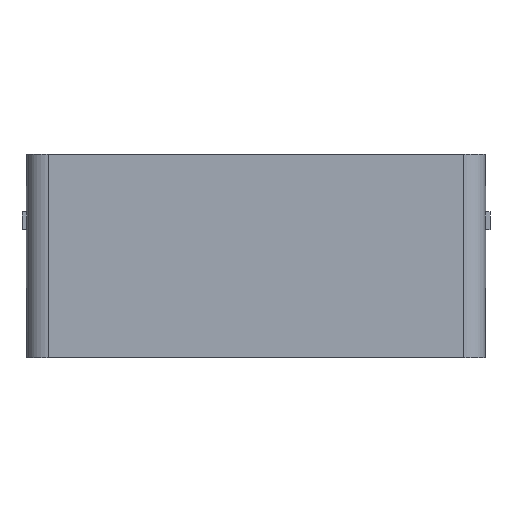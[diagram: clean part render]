
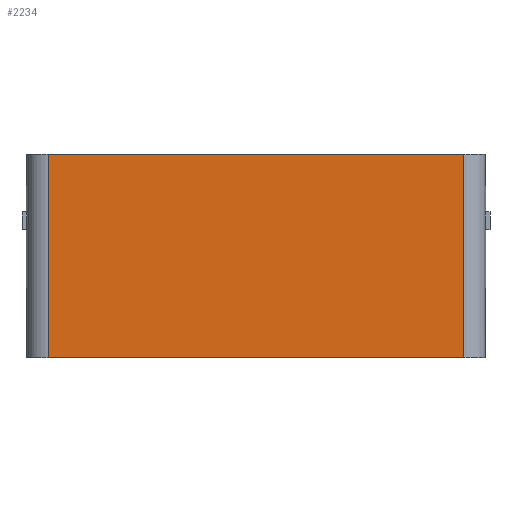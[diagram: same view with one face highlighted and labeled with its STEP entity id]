
A CAD part, front view. The second image highlights one B-rep face of the part: STEP entity #2234.
In plain terms, the highlighted planar face has unit normal (0, -1, 0).
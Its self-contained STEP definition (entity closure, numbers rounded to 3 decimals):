
#44 = PLANE('',#45);
#45 = AXIS2_PLACEMENT_3D('',#46,#47,#48);
#46 = CARTESIAN_POINT('',(61.,-41.,10.));
#47 = DIRECTION('',(0.,0.,1.));
#48 = DIRECTION('',(1.,0.,0.));
#72 = CYLINDRICAL_SURFACE('',#73,5.);
#73 = AXIS2_PLACEMENT_3D('',#74,#75,#76);
#74 = CARTESIAN_POINT('',(56.,-36.,-36.));
#75 = DIRECTION('',(-0.,-0.,1.));
#76 = DIRECTION('',(1.,-0.,0.));
#207 = PLANE('',#208);
#208 = AXIS2_PLACEMENT_3D('',#209,#210,#211);
#209 = CARTESIAN_POINT('',(61.,-41.,-36.));
#210 = DIRECTION('',(0.,0.,1.));
#211 = DIRECTION('',(1.,0.,0.));
#478 = VERTEX_POINT('',#479);
#479 = CARTESIAN_POINT('',(56.,-41.,10.));
#505 = EDGE_CURVE('',#478,#506,#508,.T.);
#506 = VERTEX_POINT('',#507);
#507 = CARTESIAN_POINT('',(-38.,-41.,10.));
#508 = SURFACE_CURVE('',#509,(#513,#520),.PCURVE_S1.);
#509 = LINE('',#510,#511);
#510 = CARTESIAN_POINT('',(61.,-41.,10.));
#511 = VECTOR('',#512,1.);
#512 = DIRECTION('',(-1.,-0.,0.));
#513 = PCURVE('',#44,#514);
#514 = DEFINITIONAL_REPRESENTATION('',(#515),#519);
#515 = LINE('',#516,#517);
#516 = CARTESIAN_POINT('',(0.,-0.));
#517 = VECTOR('',#518,1.);
#518 = DIRECTION('',(-1.,0.));
#519 = ( GEOMETRIC_REPRESENTATION_CONTEXT(2) 
PARAMETRIC_REPRESENTATION_CONTEXT() REPRESENTATION_CONTEXT('2D SPACE',''
  ) );
#520 = PCURVE('',#521,#526);
#521 = PLANE('',#522);
#522 = AXIS2_PLACEMENT_3D('',#523,#524,#525);
#523 = CARTESIAN_POINT('',(61.,-41.,-36.));
#524 = DIRECTION('',(-0.,1.,0.));
#525 = DIRECTION('',(0.,0.,-1.));
#526 = DEFINITIONAL_REPRESENTATION('',(#527),#531);
#527 = LINE('',#528,#529);
#528 = CARTESIAN_POINT('',(-46.,-0.));
#529 = VECTOR('',#530,1.);
#530 = DIRECTION('',(-0.,1.));
#531 = ( GEOMETRIC_REPRESENTATION_CONTEXT(2) 
PARAMETRIC_REPRESENTATION_CONTEXT() REPRESENTATION_CONTEXT('2D SPACE',''
  ) );
#550 = CYLINDRICAL_SURFACE('',#551,5.);
#551 = AXIS2_PLACEMENT_3D('',#552,#553,#554);
#552 = CARTESIAN_POINT('',(-38.,-36.,-36.));
#553 = DIRECTION('',(-0.,-0.,1.));
#554 = DIRECTION('',(-1.,-0.,-0.));
#895 = VERTEX_POINT('',#896);
#896 = CARTESIAN_POINT('',(56.,-41.,-36.));
#922 = EDGE_CURVE('',#895,#478,#923,.T.);
#923 = SURFACE_CURVE('',#924,(#928,#935),.PCURVE_S1.);
#924 = LINE('',#925,#926);
#925 = CARTESIAN_POINT('',(56.,-41.,-36.));
#926 = VECTOR('',#927,1.);
#927 = DIRECTION('',(-0.,-0.,1.));
#928 = PCURVE('',#72,#929);
#929 = DEFINITIONAL_REPRESENTATION('',(#930),#934);
#930 = LINE('',#931,#932);
#931 = CARTESIAN_POINT('',(-1.571,0.));
#932 = VECTOR('',#933,1.);
#933 = DIRECTION('',(-0.,1.));
#934 = ( GEOMETRIC_REPRESENTATION_CONTEXT(2) 
PARAMETRIC_REPRESENTATION_CONTEXT() REPRESENTATION_CONTEXT('2D SPACE',''
  ) );
#935 = PCURVE('',#521,#936);
#936 = DEFINITIONAL_REPRESENTATION('',(#937),#941);
#937 = LINE('',#938,#939);
#938 = CARTESIAN_POINT('',(-0.,5.));
#939 = VECTOR('',#940,1.);
#940 = DIRECTION('',(-1.,-0.));
#941 = ( GEOMETRIC_REPRESENTATION_CONTEXT(2) 
PARAMETRIC_REPRESENTATION_CONTEXT() REPRESENTATION_CONTEXT('2D SPACE',''
  ) );
#1159 = EDGE_CURVE('',#895,#1160,#1162,.T.);
#1160 = VERTEX_POINT('',#1161);
#1161 = CARTESIAN_POINT('',(-38.,-41.,-36.));
#1162 = SURFACE_CURVE('',#1163,(#1167,#1174),.PCURVE_S1.);
#1163 = LINE('',#1164,#1165);
#1164 = CARTESIAN_POINT('',(61.,-41.,-36.));
#1165 = VECTOR('',#1166,1.);
#1166 = DIRECTION('',(-1.,-0.,0.));
#1167 = PCURVE('',#207,#1168);
#1168 = DEFINITIONAL_REPRESENTATION('',(#1169),#1173);
#1169 = LINE('',#1170,#1171);
#1170 = CARTESIAN_POINT('',(0.,-0.));
#1171 = VECTOR('',#1172,1.);
#1172 = DIRECTION('',(-1.,0.));
#1173 = ( GEOMETRIC_REPRESENTATION_CONTEXT(2) 
PARAMETRIC_REPRESENTATION_CONTEXT() REPRESENTATION_CONTEXT('2D SPACE',''
  ) );
#1174 = PCURVE('',#521,#1175);
#1175 = DEFINITIONAL_REPRESENTATION('',(#1176),#1180);
#1176 = LINE('',#1177,#1178);
#1177 = CARTESIAN_POINT('',(-0.,-0.));
#1178 = VECTOR('',#1179,1.);
#1179 = DIRECTION('',(-0.,1.));
#1180 = ( GEOMETRIC_REPRESENTATION_CONTEXT(2) 
PARAMETRIC_REPRESENTATION_CONTEXT() REPRESENTATION_CONTEXT('2D SPACE',''
  ) );
#2234 = ADVANCED_FACE('',(#2235),#521,.F.);
#2235 = FACE_BOUND('',#2236,.T.);
#2236 = EDGE_LOOP('',(#2237,#2238,#2239,#2240));
#2237 = ORIENTED_EDGE('',*,*,#1159,.F.);
#2238 = ORIENTED_EDGE('',*,*,#922,.T.);
#2239 = ORIENTED_EDGE('',*,*,#505,.T.);
#2240 = ORIENTED_EDGE('',*,*,#2241,.F.);
#2241 = EDGE_CURVE('',#1160,#506,#2242,.T.);
#2242 = SURFACE_CURVE('',#2243,(#2247,#2254),.PCURVE_S1.);
#2243 = LINE('',#2244,#2245);
#2244 = CARTESIAN_POINT('',(-38.,-41.,-36.));
#2245 = VECTOR('',#2246,1.);
#2246 = DIRECTION('',(-0.,-0.,1.));
#2247 = PCURVE('',#521,#2248);
#2248 = DEFINITIONAL_REPRESENTATION('',(#2249),#2253);
#2249 = LINE('',#2250,#2251);
#2250 = CARTESIAN_POINT('',(-0.,99.));
#2251 = VECTOR('',#2252,1.);
#2252 = DIRECTION('',(-1.,-0.));
#2253 = ( GEOMETRIC_REPRESENTATION_CONTEXT(2) 
PARAMETRIC_REPRESENTATION_CONTEXT() REPRESENTATION_CONTEXT('2D SPACE',''
  ) );
#2254 = PCURVE('',#550,#2255);
#2255 = DEFINITIONAL_REPRESENTATION('',(#2256),#2260);
#2256 = LINE('',#2257,#2258);
#2257 = CARTESIAN_POINT('',(1.571,0.));
#2258 = VECTOR('',#2259,1.);
#2259 = DIRECTION('',(0.,1.));
#2260 = ( GEOMETRIC_REPRESENTATION_CONTEXT(2) 
PARAMETRIC_REPRESENTATION_CONTEXT() REPRESENTATION_CONTEXT('2D SPACE',''
  ) );
